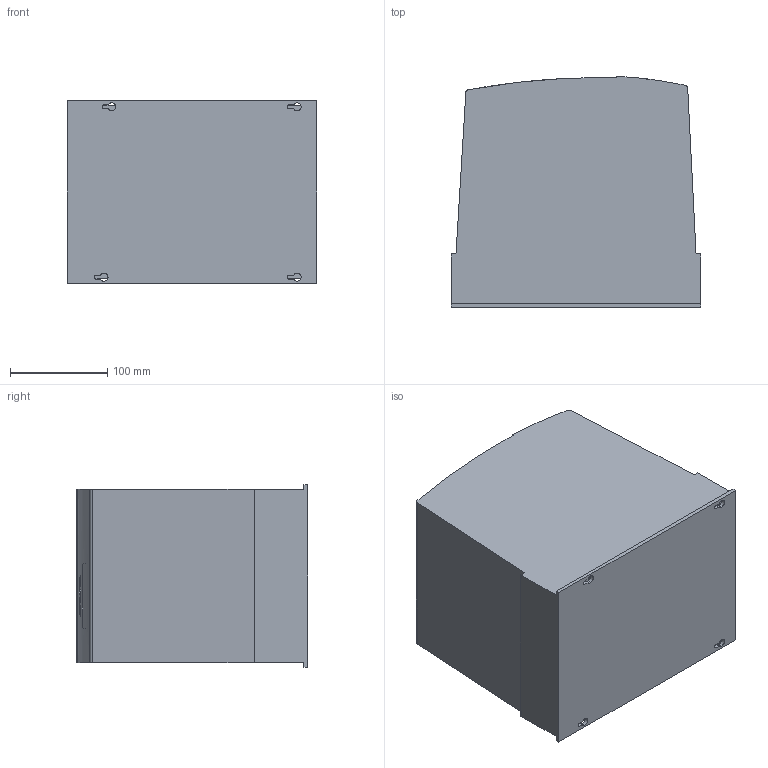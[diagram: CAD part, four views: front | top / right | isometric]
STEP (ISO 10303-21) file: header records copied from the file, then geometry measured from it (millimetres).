
FILE_DESCRIPTION (( 'STEP AP214' ), '1' );
FILE_NAME ('P2 S2 IP66 NS1.STEP', '2017-08-15T11:23:07', ( '' ), ( '' ), 'SwSTEP 2.0', 'SolidWorks 2017', '' );
FILE_SCHEMA (( 'AUTOMOTIVE_DESIGN' ));
Length unit declared in the file: millimetre
Products named in the file (1): P2 S2 IP66 NS1
Bounding box: 257 x 237.74 x 188 mm (x, y, z)
Volume: 10028556 mm3; surface area: 287591.4 mm2
Topology: 1 solids, 1 shells, 184 faces, 466 edges, 308 vertices
Faces by surface type: plane 91, cylinder 88, bspline 5
Entity records: 6278 total; most frequent: CARTESIAN_POINT 1988, ORIENTED_EDGE 932, DIRECTION 808, EDGE_CURVE 466, VERTEX_POINT 308, AXIS2_PLACEMENT_3D 284, LINE 240, VECTOR 240
